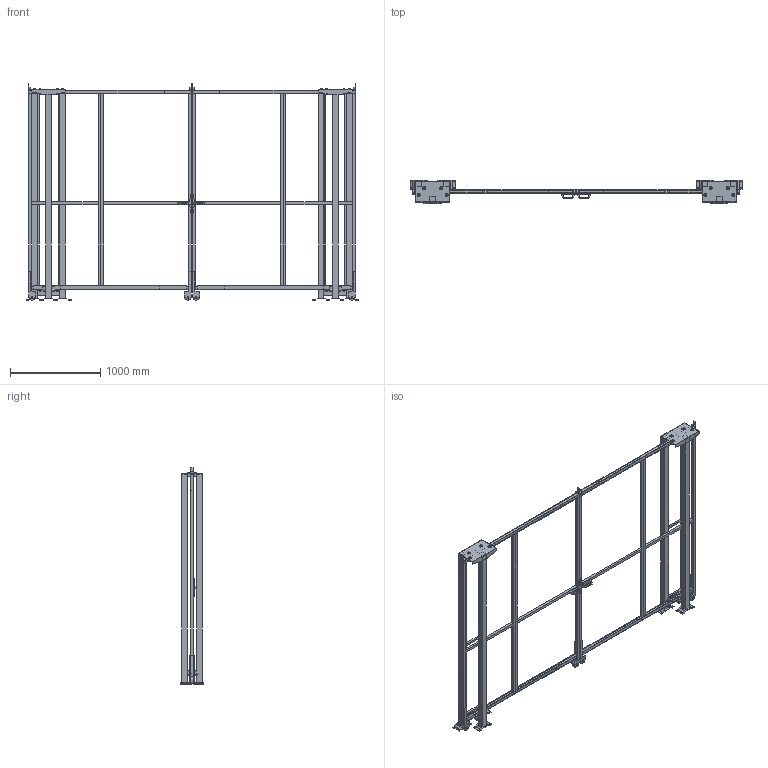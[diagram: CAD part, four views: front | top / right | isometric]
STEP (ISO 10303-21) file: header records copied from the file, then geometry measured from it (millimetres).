
FILE_DESCRIPTION(/* description */ (''),/* implementation_level */ '2;1');
FILE_NAME(/* name */ 'C:\SafeGuarding\ELABORATI\KLADKA2KR_2025-03-25-10-51-28.stp',/* time_stamp */ '2025-03-25T10:51:34+01:00',/* author */ ('admin'),/* organization */ (''),/* preprocessor_version */ 'ST-DEVELOPER v18.1',/* originating_system */ 'AutoCAD Mechanical',/* authorisation */ '');
FILE_SCHEMA (('AUTOMOTIVE_DESIGN { 1 0 10303 214 3 1 1 }'));
Length unit declared in the file: millimetre
Products named in the file (6): Product; R_VFPA.REPE30.08002200; R_VFPA.REPE30.10002200; P_VFMA.V360SDU.2320; R_VFPA.REPE20.02502200; P_VFMA.V260SDU.2320
Assembly tree (12 placements, depth 2):
  Product
    R_VFPA.REPE30.08002200  x2
    R_VFPA.REPE30.10002200  x2
    P_VFMA.V360SDU.2320  x2
    P_VFMA.V260SDU.2320  x4
    R_VFPA.REPE20.02502200  x2
Bounding box: 3671.36 x 264 x 2390.02 mm (x, y, z)
Volume: 85388353.5 mm3; surface area: 11972047.5 mm2
Topology: 108 solids, 130 shells, 946 faces, 2935 edges, 2993 vertices
Faces by surface type: plane 870, cylinder 76
Full cylindrical faces by diameter (mm): 9 x8, 11 x24, 13 x8, 14 x4, 30 x12, 36 x16, 80 x4
Entity records: 25059 total; most frequent: CARTESIAN_POINT 5327, DIRECTION 3827, ORIENTED_EDGE 3524, EDGE_CURVE 1860, LINE 1769, VECTOR 1769, VERTEX_POINT 1320, AXIS2_PLACEMENT_3D 1029
